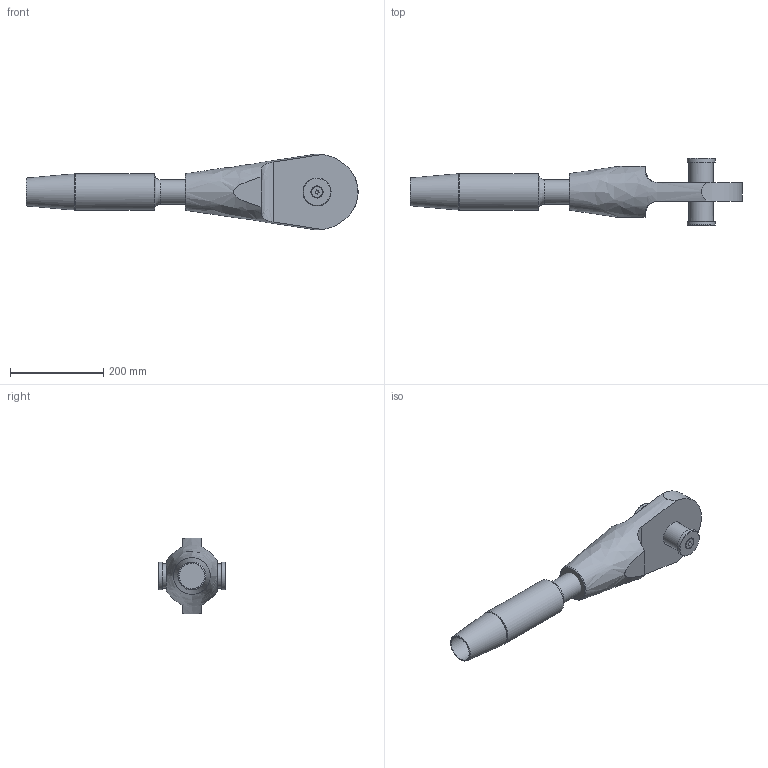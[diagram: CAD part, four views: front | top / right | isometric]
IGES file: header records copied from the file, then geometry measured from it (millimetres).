
Global section: file name: 520-052-OES-ADA; native system: Autodesk Inventor 2020; preprocessor: unknown; author: Administrator; date: 20201007.153944; units: millimetre
Bounding box: 711.88 x 144.44 x 162.59 mm (x, y, z)
Volume: 4115223.9 mm3; surface area: 298488.2 mm2
Topology: 6 solids, 6 shells, 56 faces, 135 edges, 93 vertices
Faces by surface type: bspline 56
